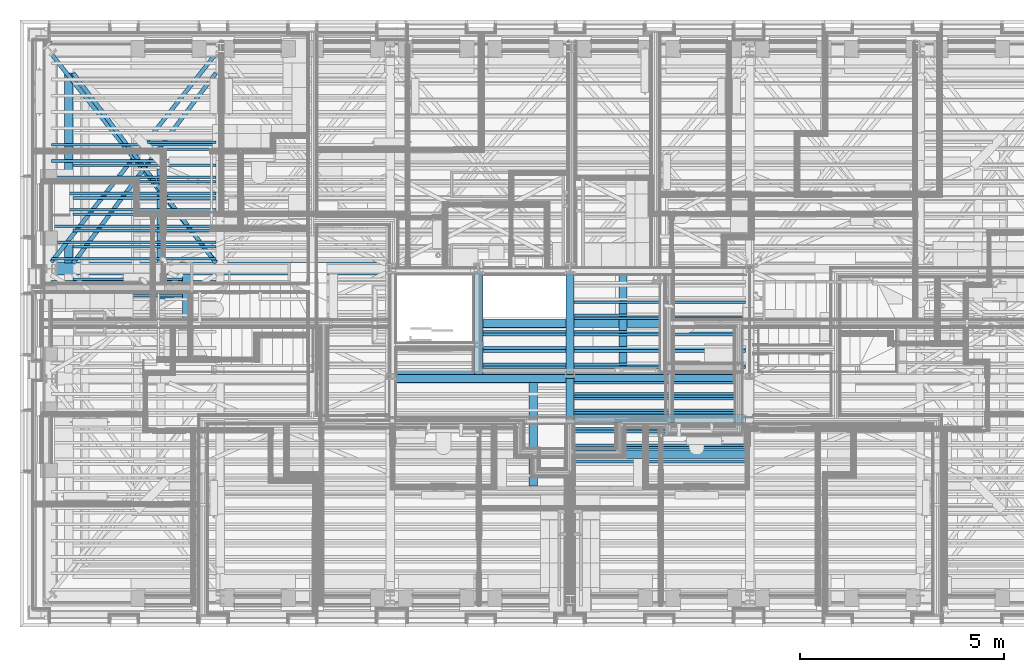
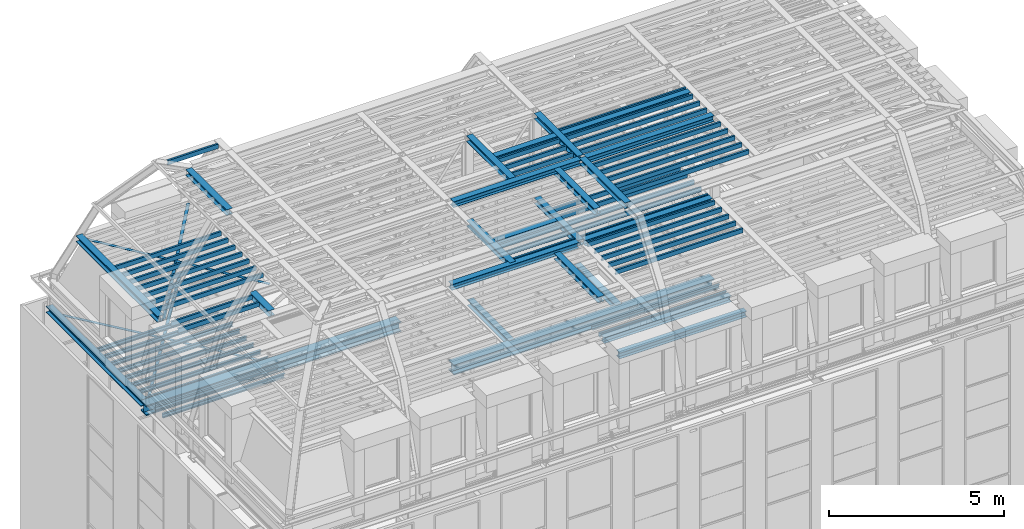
# One storey, part 6 of 183: 75 beams.
"""IFC2X3 building model written with IfcOpenShell, lengths in metres."""

import ifcopenshell
import ifcopenshell.guid

model = None  # the IFC model being written
_history = None  # IfcOwnerHistory: only IFC2X3 demands one
_inside = {}  # id of a spatial element -> (the spatial element, [elements in it])
_under = {}  # id of a project, library or spatial element -> (it, [spatial elements below it])
_declared = {}  # id of a project -> (the project, [libraries it declares])
_typed = {}  # id of a type object -> (the type object, [elements of that type])
_made_of = {}  # id of a material, layer set ... -> (it, [elements and type objects made of it])


def new_model(schema):
    """Start an empty IFC model of exactly this schema.

    Asked for "IFC4X3", IfcOpenShell would pick the latest addendum, in which some entities
    have other attributes; the version numbers below select the first issue.
    IFC2X3 requires an IfcOwnerHistory on every rooted entity: one is made here for all.
    """
    global model, _history
    if schema == "IFC4X3":
        model = ifcopenshell.file(schema_version=(4, 3, 0, 0))
    else:
        model = ifcopenshell.file(schema=schema)
    _inside.clear()
    _under.clear()
    _declared.clear()
    _typed.clear()
    _made_of.clear()
    _history = None
    if model.schema == "IFC2X3":
        org = make("IfcOrganization", Name="unknown")
        user = make(
            "IfcPersonAndOrganization",
            ThePerson=make("IfcPerson", FamilyName="unknown"),
            TheOrganization=org,
        )
        app = make(
            "IfcApplication",
            ApplicationDeveloper=org,
            Version="unknown",
            ApplicationFullName="unknown",
            ApplicationIdentifier="unknown",
        )
        _history = make(
            "IfcOwnerHistory",
            OwningUser=user,
            OwningApplication=app,
            ChangeAction="ADDED",
            CreationDate=0,
        )
    return model


def make(cls, **values):
    """One entity of the class cls with the attributes given. An attribute that is None is left unset."""
    return model.create_entity(
        cls, **{name: value for name, value in values.items() if value is not None}
    )


def entity(cls, *values):
    """Any entity or typed value of the class cls, its attributes in the order of the schema. None: left unset."""
    e = model.create_entity(cls)
    for i, value in enumerate(values):
        if value is not None:
            e[i] = value
    return e


def rooted(cls, **values):
    """An entity with a GlobalId (a new one), such as an element, a storey or a relation."""
    return make(cls, GlobalId=ifcopenshell.guid.new(), OwnerHistory=_history, **values)


def si_unit(unit_type, name, prefix=None):
    """IfcSIUnit, for example si_unit("LENGTHUNIT", "METRE", prefix="MILLI")."""
    return make("IfcSIUnit", UnitType=unit_type, Prefix=prefix, Name=name)


def converted_unit(unit_type, name, factor, base, dimensions=None, offset=None):
    """IfcConversionBasedUnit, such as the inch: factor (a typed value) times the base unit."""
    return make(
        "IfcConversionBasedUnit"
        if offset is None
        else "IfcConversionBasedUnitWithOffset",
        ConversionOffset=offset,
        Dimensions=None
        if dimensions is None
        else entity("IfcDimensionalExponents", *dimensions),
        UnitType=unit_type,
        Name=name,
        ConversionFactor=make(
            "IfcMeasureWithUnit", ValueComponent=factor, UnitComponent=base
        ),
    )


def derived_unit(unit_type, elements):
    """IfcDerivedUnit: a product of units, each with its exponent."""
    return make(
        "IfcDerivedUnit",
        Elements=[
            make("IfcDerivedUnitElement", Unit=unit, Exponent=power)
            for unit, power in elements
        ],
        UnitType=unit_type,
    )


def money_unit(currency):
    """IfcMonetaryUnit."""
    return make("IfcMonetaryUnit", Currency=currency)


def assignment(units):
    """IfcUnitAssignment: the units of a project."""
    return None if units is None else make("IfcUnitAssignment", Units=units)


def point(xyz):
    """IfcCartesianPoint."""
    return None if xyz is None else make("IfcCartesianPoint", Coordinates=xyz)


def direction(xyz):
    """IfcDirection."""
    return None if xyz is None else make("IfcDirection", DirectionRatios=xyz)


def frame(location, z_axis=None, x_axis=None):
    """IfcAxis2Placement3D, a coordinate frame: its origin and axes. An axis left out is left unset."""
    return make(
        "IfcAxis2Placement3D",
        Location=point(location),
        Axis=direction(z_axis),
        RefDirection=direction(x_axis),
    )


def frame_2d(location, x_axis=None):
    """IfcAxis2Placement2D, a coordinate frame in the plane: its origin and x axis."""
    return make(
        "IfcAxis2Placement2D", Location=point(location), RefDirection=direction(x_axis)
    )


def origin_with_axes():
    """The frame at (0, 0, 0) with the z axis (0, 0, 1) and the x axis (1, 0, 0) written out."""
    return frame((0.0, 0.0, 0.0), z_axis=(0.0, 0.0, 1.0), x_axis=(1.0, 0.0, 0.0))


def place(relative_to, where):
    """IfcLocalPlacement: puts the frame where relative to a parent placement (None: the world)."""
    return make(
        "IfcLocalPlacement", PlacementRelTo=relative_to, RelativePlacement=where
    )


def context(
    kind, dimensions, precision=None, world=None, true_north=None, identifier=None
):
    """IfcGeometricRepresentationContext, for example the 3D "Model" context."""
    return make(
        "IfcGeometricRepresentationContext",
        ContextIdentifier=identifier,
        ContextType=kind,
        CoordinateSpaceDimension=dimensions,
        Precision=precision,
        WorldCoordinateSystem=world,
        TrueNorth=true_north,
    )


def subcontext(parent, identifier, kind, view, scale=None):
    """IfcGeometricRepresentationSubContext, for example "Body" below "Model"."""
    return make(
        "IfcGeometricRepresentationSubContext",
        ContextIdentifier=identifier,
        ContextType=kind,
        ParentContext=parent,
        TargetScale=scale,
        TargetView=view,
    )


def project(units=None, contexts=None):
    """IfcProject with its units and contexts."""
    return rooted(
        "IfcProject",
        Name="project",
        RepresentationContexts=contexts,
        UnitsInContext=assignment(units),
    )


def spatial(cls, under=None, at=None, **own):
    """A site, building, storey or space (cls), placed at a placement, below another one or the project."""
    s = rooted(cls, ObjectPlacement=at, **own)
    if under is not None:
        _under.setdefault(under.id(), (under, []))[1].append(s)
    return s


def polyline(points):
    """IfcPolyline through the points."""
    return make("IfcPolyline", Points=[point(p) for p in points])


def profile(cls, at=None, kind="AREA", **sizes):
    """A parametric profile (cls). Its sizes go by their IFC names, for example OverallWidth=200.0."""
    return make(cls, ProfileType=kind, Position=at, **sizes)


def rectangle(**sizes):
    """IfcRectangleProfileDef."""
    return profile("IfcRectangleProfileDef", **sizes)


def outline(outer, holes=None, kind="AREA"):
    """IfcArbitraryClosedProfileDef: a profile drawn as a closed curve; with holes, ...WithVoids."""
    if holes is None:
        return make("IfcArbitraryClosedProfileDef", ProfileType=kind, OuterCurve=outer)
    return make(
        "IfcArbitraryProfileDefWithVoids",
        ProfileType=kind,
        OuterCurve=outer,
        InnerCurves=holes,
    )


def extrude(swept, where, along, depth):
    """IfcExtrudedAreaSolid: the profile swept, set in the frame where, extruded along a direction by depth."""
    return make(
        "IfcExtrudedAreaSolid",
        SweptArea=swept,
        Position=where,
        ExtrudedDirection=direction(along),
        Depth=depth,
    )


def shape(context_of_items, identifier, shape_type, items):
    """IfcShapeRepresentation: the items that make up one representation, for example the "Body"."""
    return make(
        "IfcShapeRepresentation",
        ContextOfItems=context_of_items,
        RepresentationIdentifier=identifier,
        RepresentationType=shape_type,
        Items=items,
    )


def material(Name=None, Category=None):
    """IfcMaterial."""
    return make("IfcMaterial", Name=Name, Category=Category)


def made_of(thing, what):
    """Note that an element or type object is made of a material, layer set ...; save() writes the relation."""
    if what is not None:
        _made_of.setdefault(what.id(), (what, []))[1].append(thing)
    return thing


def type_object(cls, material=None, **own):
    """A type object (cls), such as IfcWallType, which elements share."""
    return made_of(rooted(cls, **own), material)


def element(
    cls,
    number,
    at=None,
    inside=None,
    cuts=None,
    type_object=None,
    material=None,
    context=None,
    identifier="Body",
    shape_type=None,
    held_by="IfcProductDefinitionShape",
    body=None,
    shapes=None,
    **own,
):
    """One element of the class cls, such as IfcWall. Its Tag is "e" and its number.

    at: its placement. inside: the storey or other place that contains it. cuts: it is an
    opening in that element (IfcRelVoidsElement). A single representation is given by context,
    identifier, shape_type and body (its items); several are given by shapes. held_by: the class
    of the entity that holds the representations. save() writes the other relations.
    """
    e = rooted(cls, Tag="e%d" % number, ObjectPlacement=at, **own)
    if body is not None:
        shapes = [shape(context, identifier, shape_type, body)]
    if shapes is not None:
        e.Representation = make(held_by, Representations=shapes)
    if inside is not None:
        _inside.setdefault(inside.id(), (inside, []))[1].append(e)
    if cuts is not None:
        rooted(
            "IfcRelVoidsElement", RelatingBuildingElement=cuts, RelatedOpeningElement=e
        )
    if type_object is not None:
        _typed.setdefault(type_object.id(), (type_object, []))[1].append(e)
    return made_of(e, material)


def aggregate(whole, parts):
    """IfcRelAggregates: a whole, such as a stair, and the parts it consists of."""
    return rooted("IfcRelAggregates", RelatingObject=whole, RelatedObjects=parts)


def save(model, path):
    """Write the relations noted so far, then the file.

    IfcRelAggregates (storeys below a building ...), IfcRelContainedInSpatialStructure (elements
    in a storey), IfcRelDefinesByType, IfcRelAssociatesMaterial and IfcRelDeclares: one each for
    every whole, place, type object, material and project.
    """
    for whole, parts in _under.values():
        aggregate(whole, parts)
    for where, things in _inside.values():
        rooted(
            "IfcRelContainedInSpatialStructure",
            RelatedElements=things,
            RelatingStructure=where,
        )
    for kind, things in _typed.values():
        rooted("IfcRelDefinesByType", RelatedObjects=things, RelatingType=kind)
    for what, things in _made_of.values():
        rooted("IfcRelAssociatesMaterial", RelatedObjects=things, RelatingMaterial=what)
    for by, libraries in _declared.values():
        rooted("IfcRelDeclares", RelatingContext=by, RelatedDefinitions=libraries)
    model.write(path)


model = new_model("IFC2X3")

# Units and contexts
model_context = context("Model", 3, precision=1e-05, world=origin_with_axes(), true_north=direction((0.0, 1.0)))
body_context = subcontext(model_context, "Body", "Model", "MODEL_VIEW", scale=1.0)
ifc_project = project(units=[si_unit("LENGTHUNIT", "METRE"), si_unit("AREAUNIT", "SQUARE_METRE"), si_unit("VOLUMEUNIT", "CUBIC_METRE"), si_unit("ABSORBEDDOSEUNIT", "GRAY"), si_unit("AMOUNTOFSUBSTANCEUNIT", "MOLE"), si_unit("DOSEEQUIVALENTUNIT", "SIEVERT"), si_unit("ELECTRICCAPACITANCEUNIT", "FARAD"), si_unit("ELECTRICCHARGEUNIT", "COULOMB"), si_unit("ELECTRICCONDUCTANCEUNIT", "SIEMENS"), si_unit("ELECTRICCURRENTUNIT", "AMPERE"), si_unit("ELECTRICRESISTANCEUNIT", "OHM"), si_unit("ELECTRICVOLTAGEUNIT", "VOLT"), si_unit("ENERGYUNIT", "JOULE"), si_unit("FORCEUNIT", "NEWTON"), si_unit("FREQUENCYUNIT", "HERTZ"), si_unit("ILLUMINANCEUNIT", "LUX"), si_unit("INDUCTANCEUNIT", "HENRY"), si_unit("LUMINOUSFLUXUNIT", "LUMEN"), si_unit("LUMINOUSINTENSITYUNIT", "CANDELA"), si_unit("MAGNETICFLUXDENSITYUNIT", "TESLA"), si_unit("MAGNETICFLUXUNIT", "WEBER"), si_unit("MASSUNIT", "GRAM"), converted_unit("PLANEANGLEUNIT", "degree", entity("IfcReal", 0.0174532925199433), si_unit("PLANEANGLEUNIT", "RADIAN"), dimensions=[0, 0, 0, 0, 0, 0, 0]), si_unit("POWERUNIT", "WATT"), si_unit("PRESSUREUNIT", "PASCAL"), si_unit("RADIOACTIVITYUNIT", "BECQUEREL"), si_unit("SOLIDANGLEUNIT", "STERADIAN"), si_unit("THERMODYNAMICTEMPERATUREUNIT", "KELVIN"), si_unit("TIMEUNIT", "SECOND"), derived_unit("ACCELERATIONUNIT", [(si_unit("LENGTHUNIT", "METRE"), 1), (si_unit("TIMEUNIT", "SECOND"), -2)]), derived_unit("ANGULARVELOCITYUNIT", [(converted_unit("PLANEANGLEUNIT", "degree", entity("IfcReal", 0.0174532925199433), si_unit("PLANEANGLEUNIT", "RADIAN"), dimensions=[0, 0, 0, 0, 0, 0, 0]), 1), (si_unit("TIMEUNIT", "SECOND"), -1)]), derived_unit("CURVATUREUNIT", [(converted_unit("PLANEANGLEUNIT", "degree", entity("IfcReal", 0.0174532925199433), si_unit("PLANEANGLEUNIT", "RADIAN"), dimensions=[0, 0, 0, 0, 0, 0, 0]), 1), (si_unit("LENGTHUNIT", "METRE"), -1)]), derived_unit("DYNAMICVISCOSITYUNIT", [(si_unit("PRESSUREUNIT", "PASCAL"), 1), (si_unit("TIMEUNIT", "SECOND"), 1)]), derived_unit("HEATFLUXDENSITYUNIT", [(si_unit("POWERUNIT", "WATT"), 1), (si_unit("LENGTHUNIT", "METRE"), -2)]), derived_unit("HEATINGVALUEUNIT", [(si_unit("ENERGYUNIT", "JOULE"), 1), (si_unit("MASSUNIT", "GRAM"), -1)]), derived_unit("INTEGERCOUNTRATEUNIT", [(si_unit("TIMEUNIT", "SECOND"), -1)]), derived_unit("IONCONCENTRATIONUNIT", [(si_unit("MASSUNIT", "GRAM"), 1), (si_unit("VOLUMEUNIT", "CUBIC_METRE"), -1)]), derived_unit("ISOTHERMALMOISTURECAPACITYUNIT", [(si_unit("VOLUMEUNIT", "CUBIC_METRE"), 1), (si_unit("MASSUNIT", "GRAM"), -1)]), derived_unit("KINEMATICVISCOSITYUNIT", [(si_unit("AREAUNIT", "SQUARE_METRE"), 1), (si_unit("TIMEUNIT", "SECOND"), -1)]), derived_unit("LINEARFORCEUNIT", [(si_unit("FORCEUNIT", "NEWTON"), 1), (si_unit("LENGTHUNIT", "METRE"), -1)]), derived_unit("LINEARMOMENTUNIT", [(si_unit("FORCEUNIT", "NEWTON"), 1), (si_unit("LENGTHUNIT", "METRE"), -1)]), derived_unit("LINEARSTIFFNESSUNIT", [(si_unit("FORCEUNIT", "NEWTON"), 1), (si_unit("LENGTHUNIT", "METRE"), -1)]), derived_unit("LINEARVELOCITYUNIT", [(si_unit("LENGTHUNIT", "METRE"), 1), (si_unit("TIMEUNIT", "SECOND"), -1)]), derived_unit("LUMINOUSINTENSITYDISTRIBUTIONUNIT", [(si_unit("LUMINOUSINTENSITYUNIT", "CANDELA"), 1), (si_unit("LUMINOUSFLUXUNIT", "LUMEN"), -1)]), derived_unit("MASSDENSITYUNIT", [(si_unit("MASSUNIT", "GRAM"), 1), (si_unit("VOLUMEUNIT", "CUBIC_METRE"), -1)]), derived_unit("MASSFLOWRATEUNIT", [(si_unit("MASSUNIT", "GRAM"), 1), (si_unit("TIMEUNIT", "SECOND"), -1)]), derived_unit("MASSPERLENGTHUNIT", [(si_unit("MASSUNIT", "GRAM"), 1), (si_unit("LENGTHUNIT", "METRE"), -1)]), derived_unit("MODULUSOFELASTICITYUNIT", [(si_unit("FORCEUNIT", "NEWTON"), 1), (si_unit("AREAUNIT", "SQUARE_METRE"), -1)]), derived_unit("MODULUSOFLINEARSUBGRADEREACTIONUNIT", [(si_unit("FORCEUNIT", "NEWTON"), 1), (si_unit("LENGTHUNIT", "METRE"), -2)]), derived_unit("MODULUSOFROTATIONALSUBGRADEREACTIONUNIT", [(si_unit("FORCEUNIT", "NEWTON"), 1), (si_unit("LENGTHUNIT", "METRE"), 1)]), derived_unit("MODULUSOFSUBGRADEREACTIONUNIT", [(si_unit("FORCEUNIT", "NEWTON"), 1), (si_unit("VOLUMEUNIT", "CUBIC_METRE"), -1)]), derived_unit("MOISTUREDIFFUSIVITYUNIT", [(si_unit("VOLUMEUNIT", "CUBIC_METRE"), 1), (si_unit("TIMEUNIT", "SECOND"), -1)]), derived_unit("MOLECULARWEIGHTUNIT", [(si_unit("MASSUNIT", "GRAM"), 1), (si_unit("AMOUNTOFSUBSTANCEUNIT", "MOLE"), -1)]), derived_unit("PLANARFORCEUNIT", [(si_unit("FORCEUNIT", "NEWTON"), 1), (si_unit("LENGTHUNIT", "METRE"), -2)]), derived_unit("ROTATIONALFREQUENCYUNIT", [(si_unit("TIMEUNIT", "SECOND"), -1)]), derived_unit("ROTATIONALMASSUNIT", [(si_unit("MASSUNIT", "GRAM"), 1), (si_unit("LENGTHUNIT", "METRE"), 2)]), derived_unit("ROTATIONALSTIFFNESSUNIT", [(si_unit("FORCEUNIT", "NEWTON"), 1), (si_unit("LENGTHUNIT", "METRE"), 1), (converted_unit("PLANEANGLEUNIT", "degree", entity("IfcReal", 0.0174532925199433), si_unit("PLANEANGLEUNIT", "RADIAN"), dimensions=[0, 0, 0, 0, 0, 0, 0]), -1)]), derived_unit("SECTIONAREAINTEGRALUNIT", [(si_unit("LENGTHUNIT", "METRE"), 5)]), derived_unit("SECTIONMODULUSUNIT", [(si_unit("LENGTHUNIT", "METRE"), 3)]), derived_unit("SHEARMODULUSUNIT", [(si_unit("FORCEUNIT", "NEWTON"), 1), (si_unit("AREAUNIT", "SQUARE_METRE"), -1)]), derived_unit("SOUNDPOWERUNIT", [(si_unit("ENERGYUNIT", "JOULE"), 1), (si_unit("TIMEUNIT", "SECOND"), -1)]), derived_unit("SPECIFICHEATCAPACITYUNIT", [(si_unit("FORCEUNIT", "NEWTON"), 1), (si_unit("MASSUNIT", "GRAM"), -1), (si_unit("THERMODYNAMICTEMPERATUREUNIT", "KELVIN"), -1)]), derived_unit("TEMPERATUREGRADIENTUNIT", [(si_unit("THERMODYNAMICTEMPERATUREUNIT", "KELVIN"), 1), (si_unit("LENGTHUNIT", "METRE"), -1)]), derived_unit("THERMALADMITTANCEUNIT", [(si_unit("POWERUNIT", "WATT"), 1), (si_unit("AREAUNIT", "SQUARE_METRE"), -1), (si_unit("THERMODYNAMICTEMPERATUREUNIT", "KELVIN"), -1)]), derived_unit("THERMALCONDUCTANCEUNIT", [(si_unit("POWERUNIT", "WATT"), 1), (si_unit("LENGTHUNIT", "METRE"), -1), (si_unit("THERMODYNAMICTEMPERATUREUNIT", "KELVIN"), -1)]), derived_unit("THERMALEXPANSIONCOEFFICIENTUNIT", [(si_unit("THERMODYNAMICTEMPERATUREUNIT", "KELVIN"), -1)]), derived_unit("THERMALRESISTANCEUNIT", [(si_unit("AREAUNIT", "SQUARE_METRE"), 1), (si_unit("POWERUNIT", "WATT"), -1)]), derived_unit("THERMALTRANSMITTANCEUNIT", [(si_unit("POWERUNIT", "WATT"), 1), (si_unit("AREAUNIT", "SQUARE_METRE"), -1), (si_unit("THERMODYNAMICTEMPERATUREUNIT", "KELVIN"), -1)]), derived_unit("TORQUEUNIT", [(si_unit("FORCEUNIT", "NEWTON"), 1), (si_unit("LENGTHUNIT", "METRE"), 1)]), derived_unit("VAPORPERMEABILITYUNIT", [(si_unit("MASSUNIT", "GRAM"), 1), (si_unit("TIMEUNIT", "SECOND"), -1)]), derived_unit("VOLUMETRICFLOWRATEUNIT", [(si_unit("VOLUMEUNIT", "CUBIC_METRE"), 1), (si_unit("TIMEUNIT", "SECOND"), -1)]), derived_unit("WARPINGCONSTANTUNIT", [(si_unit("LENGTHUNIT", "METRE"), 6)]), derived_unit("WARPINGMOMENTUNIT", [(si_unit("FORCEUNIT", "NEWTON"), 1), (si_unit("LENGTHUNIT", "METRE"), 2)]), money_unit("GBP")], contexts=[model_context])

# Site, building, storey
site_placement = place(None, origin_with_axes())
site = spatial("IfcSite", under=ifc_project, at=site_placement, Name="Site", CompositionType="ELEMENT")
building_placement = place(site_placement, origin_with_axes())
building = spatial("IfcBuilding", under=site, at=building_placement, Name="Building01", CompositionType="ELEMENT")
storey_placement = place(building_placement, frame((0.0, 0.0, 5.15), z_axis=(0.0, 0.0, 1.0), x_axis=(1.0, 0.0, 0.0)))
storey = spatial("IfcBuildingStorey", under=building, at=storey_placement, Name="1F", CompositionType="ELEMENT", Elevation=5.15)

# Beams
ifc_material = material(Name="A_BSUK_Beams_Steel")
beam_type_1 = type_object("IfcBeamType", Name="A-Beams-Steel", PredefinedType="BEAM")
beam_1_placement = place(storey_placement, frame((0.56, 8.6408, 9.3775), z_axis=(1.0, 0.0, 0.0), x_axis=(0.0, 1.0, 0.0)))
element("IfcBeam", 1, at=beam_1_placement, inside=storey, type_object=beam_type_1, material=ifc_material, Name="4F", ObjectType="A-Beams-Steel", context=body_context, shape_type="SweptSolid", body=[
    extrude(outline(polyline([(0.3184, 0.0), (0.3184, 0.0377), (0.1707, 0.0377), (0.1707, 0.3148), (0.3184, 0.3148), (0.3184, 0.3525), (0.0, 0.3525), (0.0, 0.3148), (0.1477, 0.3148), (0.1477, 0.0377), (0.0, 0.0377), (0.0, 0.0), (0.3184, 0.0)])), origin_with_axes(), (0.0, 0.0, 1.0), 8.42545),
])
beam_2_placement = place(storey_placement, frame((9.19455, 5.9908, 9.3775), z_axis=(1.0, 0.0, 0.0), x_axis=(0.0, 1.0, 0.0)))
element("IfcBeam", 2, at=beam_2_placement, inside=storey, type_object=beam_type_1, material=ifc_material, Name="4F", ObjectType="A-Beams-Steel", context=body_context, shape_type="SweptSolid", body=[
    extrude(outline(polyline([(0.3184, 0.0), (0.3184, 0.0377), (0.1707, 0.0377), (0.1707, 0.3148), (0.3184, 0.3148), (0.3184, 0.3525), (0.0, 0.3525), (0.0, 0.3148), (0.1477, 0.3148), (0.1477, 0.0377), (0.0, 0.0377), (0.0, 0.0), (0.3184, 0.0)])), origin_with_axes(), (0.0, 0.0, 1.0), 8.61545),
])
beam_3_placement = place(storey_placement, frame((0.56, 14.38, 9.5078), z_axis=(0.0, -1.0, 0.0), x_axis=(1.0, 0.0, 0.0)))
element("IfcBeam", 3, at=beam_3_placement, inside=storey, type_object=beam_type_1, material=ifc_material, Name="4F", ObjectType="A-Beams-Steel", context=body_context, shape_type="SweptSolid", body=[
    extrude(outline(polyline([(0.2091, 0.0), (0.2091, 0.0205), (0.1109, 0.0205), (0.1109, 0.2017), (0.2091, 0.2017), (0.2091, 0.2222), (0.0, 0.2222), (0.0, 0.2017), (0.0982, 0.2017), (0.0982, 0.0205), (0.0, 0.0205), (0.0, 0.0), (0.2091, 0.0)])), origin_with_axes(), (0.0, 0.0, 1.0), 5.4208),
])
for number, where, z_axis, x_axis, name in (
    (4, (11.1582, 8.6408, 9.5268), (0.0, -1.0, 0.0), (1.0, 0.0, 0.0), "4F"),
    (5, (14.6982, 8.6408, 9.5268), (0.0, -1.0, 0.0), (1.0, 0.0, 0.0), "4F"),
):
    element("IfcBeam", number, at=place(storey_placement, frame(where, z_axis=z_axis, x_axis=x_axis)), inside=storey, type_object=beam_type_1, material=ifc_material, Name=name, ObjectType="A-Beams-Steel", context=body_context, shape_type="SweptSolid", body=[
        extrude(outline(polyline([(0.2036, 0.0), (0.2036, 0.011), (0.1054, 0.011), (0.1054, 0.1922), (0.2036, 0.1922), (0.2036, 0.2032), (0.0, 0.2032), (0.0, 0.1922), (0.0982, 0.1922), (0.0982, 0.011), (0.0, 0.011), (0.0, 0.0), (0.2036, 0.0)])), origin_with_axes(), (0.0, 0.0, 1.0), 2.3816),
    ])
for number, where, z_axis, x_axis, name in (
    (6, (13.60455, 5.0182, 9.5268), (1.0, 0.0, 0.0), (0.0, 1.0, 0.0), "4F"),
    (7, (13.60455, 4.1382, 9.5268), (1.0, 0.0, 0.0), (0.0, 1.0, 0.0), "4F"),
):
    element("IfcBeam", number, at=place(storey_placement, frame(where, z_axis=z_axis, x_axis=x_axis)), inside=storey, type_object=beam_type_1, material=ifc_material, Name=name, ObjectType="A-Beams-Steel", context=body_context, shape_type="SweptSolid", body=[
        extrude(outline(polyline([(0.2036, 0.0), (0.2036, 0.011), (0.1054, 0.011), (0.1054, 0.1922), (0.2036, 0.1922), (0.2036, 0.2032), (0.0, 0.2032), (0.0, 0.1922), (0.0982, 0.1922), (0.0982, 0.011), (0.0, 0.011), (0.0, 0.0), (0.2036, 0.0)])), origin_with_axes(), (0.0, 0.0, 1.0), 4.2009),
    ])
beam_4_placement = place(storey_placement, frame((1.0968, 13.5982, 12.2642), z_axis=(0.0, -1.0, 0.0), x_axis=(1.0, 0.0, 0.0)))
element("IfcBeam", 8, at=beam_4_placement, inside=storey, type_object=beam_type_1, material=ifc_material, Name="5F", ObjectType="A-Beams-Steel", context=body_context, shape_type="SweptSolid", body=[
    extrude(outline(polyline([(0.2064, 0.0), (0.2064, 0.0173), (0.1082, 0.0173), (0.1082, 0.1985), (0.2064, 0.1985), (0.2064, 0.2158), (0.0, 0.2158), (0.0, 0.1985), (0.0982, 0.1985), (0.0982, 0.0173), (0.0, 0.0173), (0.0, 0.0), (0.2064, 0.0)])), origin_with_axes(), (0.0, 0.0, 1.0), 4.665573),
])
beam_5_placement = place(storey_placement, frame((3.9882, 8.667427, 12.2768), z_axis=(0.0, -1.0, 0.0), x_axis=(1.0, 0.0, 0.0)))
element("IfcBeam", 9, at=beam_5_placement, inside=storey, type_object=beam_type_1, material=ifc_material, Name="5F", ObjectType="A-Beams-Steel", context=body_context, shape_type="SweptSolid", body=[
    extrude(outline(polyline([(0.2036, 0.0), (0.2036, 0.011), (0.1054, 0.011), (0.1054, 0.1922), (0.2036, 0.1922), (0.2036, 0.2032), (0.0, 0.2032), (0.0, 0.1922), (0.0982, 0.1922), (0.0982, 0.011), (0.0, 0.011), (0.0, 0.0), (0.2036, 0.0)])), origin_with_axes(), (0.0, 0.0, 1.0), 1.082983),
])
beam_6_placement = place(storey_placement, frame((11.1582, 8.6857, 12.2768), z_axis=(0.0, -1.0, 0.0), x_axis=(1.0, 0.0, 0.0)))
element("IfcBeam", 10, at=beam_6_placement, inside=storey, type_object=beam_type_1, material=ifc_material, Name="5F", ObjectType="A-Beams-Steel", context=body_context, shape_type="SweptSolid", body=[
    extrude(outline(polyline([(0.2036, 0.0), (0.2036, 0.011), (0.1054, 0.011), (0.1054, 0.1922), (0.2036, 0.1922), (0.2036, 0.2032), (0.0, 0.2032), (0.0, 0.1922), (0.0982, 0.1922), (0.0982, 0.011), (0.0, 0.011), (0.0, 0.0), (0.2036, 0.0)])), origin_with_axes(), (0.0, 0.0, 1.0), 2.483901),
])
beam_7_placement = place(storey_placement, frame((13.3982, 8.6857, 12.2768), z_axis=(0.0, -1.0, 0.0), x_axis=(1.0, 0.0, 0.0)))
element("IfcBeam", 11, at=beam_7_placement, inside=storey, type_object=beam_type_1, material=ifc_material, Name="5F", ObjectType="A-Beams-Steel", context=body_context, shape_type="SweptSolid", body=[
    extrude(outline(polyline([(0.2036, 0.0), (0.2036, 0.011), (0.1054, 0.011), (0.1054, 0.1922), (0.2036, 0.1922), (0.2036, 0.2032), (0.0, 0.2032), (0.0, 0.1922), (0.0982, 0.1922), (0.0982, 0.011), (0.0, 0.011), (0.0, 0.0), (0.2036, 0.0)])), origin_with_axes(), (0.0, 0.0, 1.0), 2.4857),
])
beam_8_placement = place(storey_placement, frame((12.4982, 5.998193, 12.2768), z_axis=(0.0, -1.0, 0.0), x_axis=(1.0, 0.0, 0.0)))
element("IfcBeam", 12, at=beam_8_placement, inside=storey, type_object=beam_type_1, material=ifc_material, Name="5F", ObjectType="A-Beams-Steel", context=body_context, shape_type="SweptSolid", body=[
    extrude(outline(polyline([(0.2036, 0.0), (0.2036, 0.011), (0.1054, 0.011), (0.1054, 0.1922), (0.2036, 0.1922), (0.2036, 0.2032), (0.0, 0.2032), (0.0, 0.1922), (0.0982, 0.1922), (0.0982, 0.011), (0.0, 0.011), (0.0, 0.0), (0.2036, 0.0)])), origin_with_axes(), (0.0, 0.0, 1.0), 2.536393),
])
beam_9_placement = place(storey_placement, frame((13.6, 6.098199, 12.2768), z_axis=(1.0, 0.0, 0.0), x_axis=(0.0, 1.0, 0.0)))
element("IfcBeam", 13, at=beam_9_placement, inside=storey, type_object=beam_type_1, material=ifc_material, Name="5F", ObjectType="A-Beams-Steel", context=body_context, shape_type="SweptSolid", body=[
    extrude(outline(polyline([(0.2036, 0.0), (0.2036, 0.011), (0.1054, 0.011), (0.1054, 0.1922), (0.2036, 0.1922), (0.2036, 0.2032), (0.0, 0.2032), (0.0, 0.1922), (0.0982, 0.1922), (0.0982, 0.011), (0.0, 0.011), (0.0, 0.0), (0.2036, 0.0)])), origin_with_axes(), (0.0, 0.0, 1.0), 4.21),
])
beam_10_placement = place(storey_placement, frame((9.1918, 6.098199, 12.2768), z_axis=(1.0, 0.0, 0.0), x_axis=(0.0, 1.0, 0.0)))
element("IfcBeam", 14, at=beam_10_placement, inside=storey, type_object=beam_type_1, material=ifc_material, Name="5F", ObjectType="A-Beams-Steel", context=body_context, shape_type="SweptSolid", body=[
    extrude(outline(polyline([(0.2036, 0.0), (0.2036, 0.011), (0.1054, 0.011), (0.1054, 0.1922), (0.2036, 0.1922), (0.2036, 0.2032), (0.0, 0.2032), (0.0, 0.1922), (0.0982, 0.1922), (0.0982, 0.011), (0.0, 0.011), (0.0, 0.0), (0.2036, 0.0)])), origin_with_axes(), (0.0, 0.0, 1.0), 4.2082),
])
beam_11_placement = place(storey_placement, frame((11.3618, 7.3446, 12.2768), z_axis=(1.0, 0.0, 0.0), x_axis=(0.0, 1.0, 0.0)))
element("IfcBeam", 15, at=beam_11_placement, inside=storey, type_object=beam_type_1, material=ifc_material, Name="5F", ObjectType="A-Beams-Steel", context=body_context, shape_type="SweptSolid", body=[
    extrude(outline(polyline([(0.2036, 0.0), (0.2036, 0.011), (0.1054, 0.011), (0.1054, 0.1922), (0.2036, 0.1922), (0.2036, 0.2032), (0.0, 0.2032), (0.0, 0.1922), (0.0982, 0.1922), (0.0982, 0.011), (0.0, 0.011), (0.0, 0.0), (0.2036, 0.0)])), origin_with_axes(), (0.0, 0.0, 1.0), 2.0364),
])
beam_12_placement = place(storey_placement, frame((3.3612, 11.2456, 15.2268), z_axis=(0.0, -1.0, 0.0), x_axis=(1.0, 0.0, 0.0)))
element("IfcBeam", 16, at=beam_12_placement, inside=storey, type_object=beam_type_1, material=ifc_material, Name="RP", ObjectType="A-Beams-Steel", context=body_context, shape_type="SweptSolid", body=[
    extrude(outline(polyline([(0.2036, 0.0), (0.2036, 0.011), (0.1054, 0.011), (0.1054, 0.1922), (0.2036, 0.1922), (0.2036, 0.2032), (0.0, 0.2032), (0.0, 0.1922), (0.0982, 0.1922), (0.0982, 0.011), (0.0, 0.011), (0.0, 0.0), (0.2036, 0.0)])), origin_with_axes(), (0.0, 0.0, 1.0), 2.3424),
])
beam_13_placement = place(storey_placement, frame((13.3982, 8.6857, 15.2268), z_axis=(0.0, -1.0, 0.0), x_axis=(1.0, 0.0, 0.0)))
element("IfcBeam", 17, at=beam_13_placement, inside=storey, type_object=beam_type_1, material=ifc_material, Name="RP", ObjectType="A-Beams-Steel", context=body_context, shape_type="SweptSolid", body=[
    extrude(outline(polyline([(0.2036, 0.0), (0.2036, 0.011), (0.1054, 0.011), (0.1054, 0.1922), (0.2036, 0.1922), (0.2036, 0.2032), (0.0, 0.2032), (0.0, 0.1922), (0.0982, 0.1922), (0.0982, 0.011), (0.0, 0.011), (0.0, 0.0), (0.2036, 0.0)])), origin_with_axes(), (0.0, 0.0, 1.0), 2.4857),
])
beam_14_placement = place(storey_placement, frame((13.3982, 6.1, 15.2268), z_axis=(0.0, -1.0, 0.0), x_axis=(1.0, 0.0, 0.0)))
element("IfcBeam", 18, at=beam_14_placement, inside=storey, type_object=beam_type_1, material=ifc_material, Name="RP", ObjectType="A-Beams-Steel", context=body_context, shape_type="SweptSolid", body=[
    extrude(outline(polyline([(0.2036, 0.0), (0.2036, 0.011), (0.1054, 0.011), (0.1054, 0.1922), (0.2036, 0.1922), (0.2036, 0.2032), (0.0, 0.2032), (0.0, 0.1922), (0.0982, 0.1922), (0.0982, 0.011), (0.0, 0.011), (0.0, 0.0), (0.2036, 0.0)])), origin_with_axes(), (0.0, 0.0, 1.0), 2.5992),
])
beam_15_placement = place(storey_placement, frame((11.3618, 7.3482, 15.2268), z_axis=(1.0, 0.0, 0.0), x_axis=(0.0, 1.0, 0.0)))
element("IfcBeam", 19, at=beam_15_placement, inside=storey, type_object=beam_type_1, material=ifc_material, Name="RP", ObjectType="A-Beams-Steel", context=body_context, shape_type="SweptSolid", body=[
    extrude(outline(polyline([(0.2036, 0.0), (0.2036, 0.011), (0.1054, 0.011), (0.1054, 0.1922), (0.2036, 0.1922), (0.2036, 0.2032), (0.0, 0.2032), (0.0, 0.1922), (0.0982, 0.1922), (0.0982, 0.011), (0.0, 0.011), (0.0, 0.0), (0.2036, 0.0)])), origin_with_axes(), (0.0, 0.0, 1.0), 2.0364),
])
beam_16_placement = place(storey_placement, frame((11.1582, 8.6857, 15.2268), z_axis=(0.0, -1.0, 0.0), x_axis=(1.0, 0.0, 0.0)))
element("IfcBeam", 20, at=beam_16_placement, inside=storey, type_object=beam_type_1, material=ifc_material, Name="RP", ObjectType="A-Beams-Steel", context=body_context, shape_type="SweptSolid", body=[
    extrude(outline(polyline([(0.2036, 0.0), (0.2036, 0.011), (0.1054, 0.011), (0.1054, 0.1922), (0.2036, 0.1922), (0.2036, 0.2032), (0.0, 0.2032), (0.0, 0.1922), (0.0982, 0.1922), (0.0982, 0.011), (0.0, 0.011), (0.0, 0.0), (0.2036, 0.0)])), origin_with_axes(), (0.0, 0.0, 1.0), 2.4839),
])
beam_17_placement = place(storey_placement, frame((12.4982, 5.9982, 15.2268), z_axis=(0.0, -1.0, 0.0), x_axis=(1.0, 0.0, 0.0)))
element("IfcBeam", 21, at=beam_17_placement, inside=storey, type_object=beam_type_1, material=ifc_material, Name="RP", ObjectType="A-Beams-Steel", context=body_context, shape_type="SweptSolid", body=[
    extrude(outline(polyline([(0.2036, 0.0), (0.2036, 0.011), (0.1054, 0.011), (0.1054, 0.1922), (0.2036, 0.1922), (0.2036, 0.2032), (0.0, 0.2032), (0.0, 0.1922), (0.0982, 0.1922), (0.0982, 0.011), (0.0, 0.011), (0.0, 0.0), (0.2036, 0.0)])), origin_with_axes(), (0.0, 0.0, 1.0), 2.319),
])
beam_18_placement = place(storey_placement, frame((13.6018, 7.3482, 15.2268), z_axis=(1.0, 0.0, 0.0), x_axis=(0.0, 1.0, 0.0)))
element("IfcBeam", 22, at=beam_18_placement, inside=storey, type_object=beam_type_1, material=ifc_material, Name="RP", ObjectType="A-Beams-Steel", context=body_context, shape_type="SweptSolid", body=[
    extrude(outline(polyline([(0.2036, 0.0), (0.2036, 0.011), (0.1054, 0.011), (0.1054, 0.1922), (0.2036, 0.1922), (0.2036, 0.2032), (0.0, 0.2032), (0.0, 0.1922), (0.0982, 0.1922), (0.0982, 0.011), (0.0, 0.011), (0.0, 0.0), (0.2036, 0.0)])), origin_with_axes(), (0.0, 0.0, 1.0), 4.2064),
])
for number, where, z_axis, x_axis, name in (
    (23, (13.6, 5.9982, 15.2268), (1.0, 0.0, 0.0), (0.0, 1.0, 0.0), "RP"),
    (24, (9.1918, 5.9982, 15.2268), (1.0, 0.0, 0.0), (0.0, 1.0, 0.0), "RP"),
):
    element("IfcBeam", number, at=place(storey_placement, frame(where, z_axis=z_axis, x_axis=x_axis)), inside=storey, type_object=beam_type_1, material=ifc_material, Name=name, ObjectType="A-Beams-Steel", context=body_context, shape_type="SweptSolid", body=[
        extrude(outline(polyline([(0.2036, 0.0), (0.2036, 0.011), (0.1054, 0.011), (0.1054, 0.1922), (0.2036, 0.1922), (0.2036, 0.2032), (0.0, 0.2032), (0.0, 0.1922), (0.0982, 0.1922), (0.0982, 0.011), (0.0, 0.011), (0.0, 0.0), (0.2036, 0.0)])), origin_with_axes(), (0.0, 0.0, 1.0), 4.2082),
    ])
beam_19_placement = place(storey_placement, frame((1.263218, 13.568176, 12.318), z_axis=(0.60048471, -0.79963624, 0.0), x_axis=(0.79963624, 0.60048471, 0.0)))
element("IfcBeam", 25, at=beam_19_placement, inside=storey, type_object=beam_type_1, material=ifc_material, Name="5F", ObjectType="A-Beams-Steel", context=body_context, shape_type="SweptSolid", body=[
    extrude(rectangle(XDim=0.01, YDim=0.1, at=frame_2d((0.05, 0.005), x_axis=(0.0, 1.0))), origin_with_axes(), (0.0, 0.0, 1.0), 5.83462),
])
for number, where, z_axis, x_axis, name in (
    (26, (0.729865, 14.037806, 9.568), (0.61987655, -0.78469935, 0.0), (0.78469935, 0.61987655, 0.0), "4F"),
    (27, (4.766215, 14.099794, 9.558), (-0.61987655, -0.78469935, 0.0), (0.78469935, -0.61987655, 0.0), "4F"),
):
    element("IfcBeam", number, at=place(storey_placement, frame(where, z_axis=z_axis, x_axis=x_axis)), inside=storey, type_object=beam_type_1, material=ifc_material, Name=name, ObjectType="A-Beams-Steel", context=body_context, shape_type="SweptSolid", body=[
        extrude(rectangle(XDim=0.01, YDim=0.1, at=frame_2d((0.05, 0.005), x_axis=(0.0, 1.0))), origin_with_axes(), (0.0, 0.0, 1.0), 6.511538),
    ])
beam_20_placement = place(storey_placement, frame((4.766824, 13.628232, 12.308), z_axis=(-0.60063811, -0.79952102, 0.0), x_axis=(0.79952102, -0.60063811, 0.0)))
element("IfcBeam", 28, at=beam_20_placement, inside=storey, type_object=beam_type_1, material=ifc_material, Name="5F", ObjectType="A-Beams-Steel", context=body_context, shape_type="SweptSolid", body=[
    extrude(rectangle(XDim=0.01, YDim=0.1, at=frame_2d((0.05, 0.005), x_axis=(0.0, 1.0))), origin_with_axes(), (0.0, 0.0, 1.0), 5.835461),
])
beam_type_2 = type_object("IfcBeamType", Name="SHE_A-Beams-Steel-Purlin_150m15", PredefinedType="BEAM")
for number, where, z_axis, x_axis, name in (
    (29, (1.3032, 9.300627, 12.328), (1.0, 0.0, 0.0), (0.0, 1.0, 0.0), "5F"),
    (30, (1.3032, 9.700627, 12.328), (1.0, 0.0, 0.0), (0.0, 1.0, 0.0), "5F"),
    (31, (1.3032, 10.100627, 12.328), (1.0, 0.0, 0.0), (0.0, 1.0, 0.0), "5F"),
    (32, (1.3032, 10.500627, 12.328), (1.0, 0.0, 0.0), (0.0, 1.0, 0.0), "5F"),
    (33, (1.3032, 10.900627, 12.328), (1.0, 0.0, 0.0), (0.0, 1.0, 0.0), "5F"),
    (34, (1.3032, 11.300627, 12.328), (1.0, 0.0, 0.0), (0.0, 1.0, 0.0), "5F"),
    (35, (1.3032, 11.700627, 12.328), (1.0, 0.0, 0.0), (0.0, 1.0, 0.0), "5F"),
):
    element("IfcBeam", number, at=place(storey_placement, frame(where, z_axis=z_axis, x_axis=x_axis)), inside=storey, type_object=beam_type_2, material=ifc_material, Name=name, ObjectType="SHE_A-Beams-Steel-Purlin_150m15", context=body_context, shape_type="SweptSolid", body=[
        extrude(outline(polyline([(0.064, 0.0), (0.064, 0.0155), (0.0625, 0.0155), (0.0625, 0.0015), (0.0015, 0.0015), (0.0015, 0.1505), (0.0625, 0.1505), (0.0625, 0.1365), (0.064, 0.1365), (0.064, 0.152), (0.0, 0.152), (0.0, 0.0), (0.064, 0.0)])), origin_with_axes(), (0.0, 0.0, 1.0), 3.5036),
    ])
for number, where, z_axis, x_axis, name in (
    (36, (4.80545, 9.0728, 9.578), (-1.0, 0.0, 0.0), (0.0, -1.0, 0.0), "4F"),
    (37, (4.80545, 9.4728, 9.578), (-1.0, 0.0, 0.0), (0.0, -1.0, 0.0), "4F"),
    (38, (4.80545, 9.8728, 9.578), (-1.0, 0.0, 0.0), (0.0, -1.0, 0.0), "4F"),
    (39, (4.80545, 10.2728, 9.578), (-1.0, 0.0, 0.0), (0.0, -1.0, 0.0), "4F"),
    (40, (4.80545, 10.6728, 9.578), (-1.0, 0.0, 0.0), (0.0, -1.0, 0.0), "4F"),
    (41, (4.80545, 11.0728, 9.578), (-1.0, 0.0, 0.0), (0.0, -1.0, 0.0), "4F"),
    (42, (4.80545, 11.4728, 9.578), (-1.0, 0.0, 0.0), (0.0, -1.0, 0.0), "4F"),
    (43, (4.80545, 11.8728, 9.578), (-1.0, 0.0, 0.0), (0.0, -1.0, 0.0), "4F"),
):
    element("IfcBeam", number, at=place(storey_placement, frame(where, z_axis=z_axis, x_axis=x_axis)), inside=storey, type_object=beam_type_2, material=ifc_material, Name=name, ObjectType="SHE_A-Beams-Steel-Purlin_150m15", context=body_context, shape_type="SweptSolid", body=[
        extrude(outline(polyline([(0.064, 0.0), (0.064, 0.0155), (0.0625, 0.0155), (0.0625, 0.0015), (0.0015, 0.0015), (0.0015, 0.1505), (0.0625, 0.1505), (0.0625, 0.1365), (0.064, 0.1365), (0.064, 0.152), (0.0, 0.152), (0.0, 0.0), (0.064, 0.0)])), origin_with_axes(), (0.0, 0.0, 1.0), 4.03635),
    ])
for number, where, z_axis, x_axis, name in (
    (44, (17.80545, 5.352, 9.578), (-1.0, 0.0, 0.0), (0.0, -1.0, 0.0), "4F"),
    (45, (17.80545, 5.752, 9.578), (-1.0, 0.0, 0.0), (0.0, -1.0, 0.0), "4F"),
):
    element("IfcBeam", number, at=place(storey_placement, frame(where, z_axis=z_axis, x_axis=x_axis)), inside=storey, type_object=beam_type_2, material=ifc_material, Name=name, ObjectType="SHE_A-Beams-Steel-Purlin_150m15", context=body_context, shape_type="SweptSolid", body=[
        extrude(outline(polyline([(0.064, 0.0), (0.064, 0.0155), (0.0625, 0.0155), (0.0625, 0.0015), (0.0015, 0.0015), (0.0015, 0.1505), (0.0625, 0.1505), (0.0625, 0.1365), (0.064, 0.1365), (0.064, 0.152), (0.0, 0.152), (0.0, 0.0), (0.064, 0.0)])), origin_with_axes(), (0.0, 0.0, 1.0), 4.2009),
    ])
for number, where, z_axis, x_axis, name in (
    (46, (4.8082, 8.111952, 9.578), (-1.0, 0.0, 0.0), (0.0, -1.0, 0.0), "4F"),
    (47, (4.8082, 8.511936, 9.578), (-1.0, 0.0, 0.0), (0.0, -1.0, 0.0), "4F"),
):
    element("IfcBeam", number, at=place(storey_placement, frame(where, z_axis=z_axis, x_axis=x_axis)), inside=storey, type_object=beam_type_2, material=ifc_material, Name=name, ObjectType="SHE_A-Beams-Steel-Purlin_150m15", context=body_context, shape_type="SweptSolid", body=[
        extrude(outline(polyline([(0.064, 0.0), (0.064, 0.0155), (0.0625, 0.0155), (0.0625, 0.0015), (0.0015, 0.0015), (0.0015, 0.1505), (0.0625, 0.1505), (0.0625, 0.1365), (0.064, 0.1365), (0.064, 0.152), (0.0, 0.152), (0.0, 0.0), (0.064, 0.0)])), origin_with_axes(), (0.0, 0.0, 1.0), 4.04185),
    ])
for number, where, z_axis, x_axis, name in (
    (48, (13.6032, 4.3698, 12.328), (1.0, 0.0, 0.0), (0.0, 1.0, 0.0), "5F"),
    (49, (13.6032, 4.7698, 12.328), (1.0, 0.0, 0.0), (0.0, 1.0, 0.0), "5F"),
    (50, (13.6032, 5.1698, 12.328), (1.0, 0.0, 0.0), (0.0, 1.0, 0.0), "5F"),
    (51, (13.6032, 5.5698, 12.328), (1.0, 0.0, 0.0), (0.0, 1.0, 0.0), "5F"),
    (52, (13.6032, 5.9698, 12.328), (1.0, 0.0, 0.0), (0.0, 1.0, 0.0), "5F"),
):
    element("IfcBeam", number, at=place(storey_placement, frame(where, z_axis=z_axis, x_axis=x_axis)), inside=storey, type_object=beam_type_2, material=ifc_material, Name=name, ObjectType="SHE_A-Beams-Steel-Purlin_150m15", context=body_context, shape_type="SweptSolid", body=[
        extrude(outline(polyline([(0.064, 0.0), (0.064, 0.0155), (0.0625, 0.0155), (0.0625, 0.0015), (0.0015, 0.0015), (0.0015, 0.1505), (0.0625, 0.1505), (0.0625, 0.1365), (0.064, 0.1365), (0.064, 0.152), (0.0, 0.152), (0.0, 0.0), (0.064, 0.0)])), origin_with_axes(), (0.0, 0.0, 1.0), 4.2036),
    ])
for number, where, z_axis, x_axis, name in (
    (53, (13.6018, 7.9434, 12.328), (1.0, 0.0, 0.0), (0.0, 1.0, 0.0), "5F"),
    (54, (13.6018, 7.5434, 12.328), (1.0, 0.0, 0.0), (0.0, 1.0, 0.0), "5F"),
    (55, (13.6018, 7.1434, 12.328), (1.0, 0.0, 0.0), (0.0, 1.0, 0.0), "5F"),
    (56, (13.6018, 6.7434, 12.328), (1.0, 0.0, 0.0), (0.0, 1.0, 0.0), "5F"),
    (57, (13.6018, 6.3434, 12.328), (1.0, 0.0, 0.0), (0.0, 1.0, 0.0), "5F"),
):
    element("IfcBeam", number, at=place(storey_placement, frame(where, z_axis=z_axis, x_axis=x_axis)), inside=storey, type_object=beam_type_2, material=ifc_material, Name=name, ObjectType="SHE_A-Beams-Steel-Purlin_150m15", context=body_context, shape_type="SweptSolid", body=[
        extrude(outline(polyline([(0.064, 0.0), (0.064, 0.0155), (0.0625, 0.0155), (0.0625, 0.0015), (0.0015, 0.0015), (0.0015, 0.1505), (0.0625, 0.1505), (0.0625, 0.1365), (0.064, 0.1365), (0.064, 0.152), (0.0, 0.152), (0.0, 0.0), (0.064, 0.0)])), origin_with_axes(), (0.0, 0.0, 1.0), 4.2064),
    ])
for number, where, z_axis, x_axis, name in (
    (58, (11.3618, 6.3434, 12.328), (1.0, 0.0, 0.0), (0.0, 0.0, 1.0), "5F"),
    (59, (11.3618, 6.7434, 12.328), (1.0, 0.0, 0.0), (0.0, 0.0, 1.0), "5F"),
    (60, (11.3618, 7.1434, 12.328), (1.0, 0.0, 0.0), (0.0, 0.0, 1.0), "5F"),
):
    element("IfcBeam", number, at=place(storey_placement, frame(where, z_axis=z_axis, x_axis=x_axis)), inside=storey, type_object=beam_type_2, material=ifc_material, Name=name, ObjectType="SHE_A-Beams-Steel-Purlin_150m15", context=body_context, shape_type="SweptSolid", body=[
        extrude(outline(polyline([(0.152, 0.0), (0.152, -0.064), (0.1365, -0.064), (0.1365, -0.0625), (0.1505, -0.0625), (0.1505, -0.0015), (0.0015, -0.0015), (0.0015, -0.0625), (0.0155, -0.0625), (0.0155, -0.064), (0.0, -0.064), (0.0, 0.0), (0.152, 0.0)])), origin_with_axes(), (0.0, 0.0, 1.0), 2.035),
    ])
for number, where, z_axis, x_axis, name in (
    (61, (1.3018, 8.100627, 12.328), (1.0, 0.0, 0.0), (0.0, 1.0, 0.0), "5F"),
    (62, (1.3018, 8.500627, 12.328), (1.0, 0.0, 0.0), (0.0, 1.0, 0.0), "5F"),
):
    element("IfcBeam", number, at=place(storey_placement, frame(where, z_axis=z_axis, x_axis=x_axis)), inside=storey, type_object=beam_type_2, material=ifc_material, Name=name, ObjectType="SHE_A-Beams-Steel-Purlin_150m15", context=body_context, shape_type="SweptSolid", body=[
        extrude(outline(polyline([(0.064, 0.0), (0.064, 0.0155), (0.0625, 0.0155), (0.0625, 0.0015), (0.0015, 0.0015), (0.0015, 0.1505), (0.0625, 0.1505), (0.0625, 0.1365), (0.064, 0.1365), (0.064, 0.152), (0.0, 0.152), (0.0, 0.0), (0.064, 0.0)])), origin_with_axes(), (0.0, 0.0, 1.0), 2.6864),
    ])
for number, where, z_axis, x_axis, name in (
    (63, (11.3618, 7.218, 15.278), (1.0, 0.0, 0.0), (0.0, 1.0, 0.0), "RP"),
    (64, (11.3618, 6.818, 15.278), (1.0, 0.0, 0.0), (0.0, 1.0, 0.0), "RP"),
    (65, (11.3618, 6.418, 15.278), (1.0, 0.0, 0.0), (0.0, 1.0, 0.0), "RP"),
):
    element("IfcBeam", number, at=place(storey_placement, frame(where, z_axis=z_axis, x_axis=x_axis)), inside=storey, type_object=beam_type_2, material=ifc_material, Name=name, ObjectType="SHE_A-Beams-Steel-Purlin_150m15", context=body_context, shape_type="SweptSolid", body=[
        extrude(outline(polyline([(0.064, 0.0), (0.064, 0.0155), (0.0625, 0.0155), (0.0625, 0.0015), (0.0015, 0.0015), (0.0015, 0.1505), (0.0625, 0.1505), (0.0625, 0.1365), (0.064, 0.1365), (0.064, 0.152), (0.0, 0.152), (0.0, 0.0), (0.064, 0.0)])), origin_with_axes(), (0.0, 0.0, 1.0), 2.0364),
    ])
for number, where, z_axis, x_axis, name in (
    (66, (13.6018, 6.818, 15.278), (1.0, 0.0, 0.0), (0.0, 1.0, 0.0), "RP"),
    (67, (13.6018, 7.218, 15.278), (1.0, 0.0, 0.0), (0.0, 1.0, 0.0), "RP"),
    (68, (13.6018, 7.618, 15.278), (1.0, 0.0, 0.0), (0.0, 1.0, 0.0), "RP"),
    (69, (13.6018, 6.418, 15.278), (1.0, 0.0, 0.0), (0.0, 1.0, 0.0), "RP"),
    (70, (13.6018, 4.4328, 15.278), (1.0, 0.0, 0.0), (0.0, 1.0, 0.0), "RP"),
    (71, (13.6018, 4.0328, 15.278), (1.0, 0.0, 0.0), (0.0, 1.0, 0.0), "RP"),
    (72, (13.6018, 4.8328, 15.278), (1.0, 0.0, 0.0), (0.0, 1.0, 0.0), "RP"),
    (73, (13.6018, 5.2328, 15.278), (1.0, 0.0, 0.0), (0.0, 1.0, 0.0), "RP"),
    (74, (13.6018, 5.6328, 15.278), (1.0, 0.0, 0.0), (0.0, 1.0, 0.0), "RP"),
):
    element("IfcBeam", number, at=place(storey_placement, frame(where, z_axis=z_axis, x_axis=x_axis)), inside=storey, type_object=beam_type_2, material=ifc_material, Name=name, ObjectType="SHE_A-Beams-Steel-Purlin_150m15", context=body_context, shape_type="SweptSolid", body=[
        extrude(outline(polyline([(0.064, 0.0), (0.064, 0.0155), (0.0625, 0.0155), (0.0625, 0.0015), (0.0015, 0.0015), (0.0015, 0.1505), (0.0625, 0.1505), (0.0625, 0.1365), (0.064, 0.1365), (0.064, 0.152), (0.0, 0.152), (0.0, 0.0), (0.064, 0.0)])), origin_with_axes(), (0.0, 0.0, 1.0), 4.2064),
    ])
beam_21_placement = place(storey_placement, frame((3.13262, 11.8692, 15.278), z_axis=(1.0, 0.0, 0.0), x_axis=(0.0, 1.0, 0.0)))
element("IfcBeam", 75, at=beam_21_placement, inside=storey, type_object=beam_type_2, material=ifc_material, Name="RP", ObjectType="SHE_A-Beams-Steel-Purlin_150m15", context=body_context, shape_type="SweptSolid", body=[
    extrude(outline(polyline([(0.064, 0.0), (0.064, 0.0155), (0.0625, 0.0155), (0.0625, 0.0015), (0.0015, 0.0015), (0.0015, 0.1505), (0.0625, 0.1505), (0.0625, 0.1365), (0.064, 0.1365), (0.064, 0.152), (0.0, 0.152), (0.0, 0.0), (0.064, 0.0)])), origin_with_axes(), (0.0, 0.0, 1.0), 1.67223),
])

save(model, "model.ifc")
